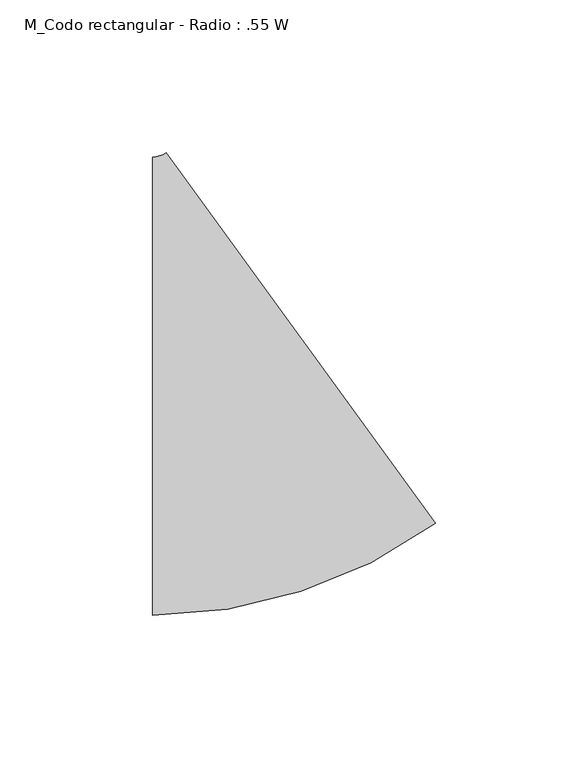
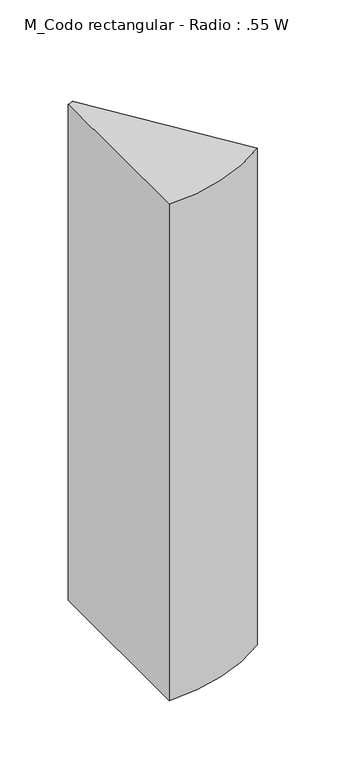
"""IFC4 building model written with IfcOpenShell, lengths in millimetres: duct fitting geometry, M_Codo rectangular - Radio : .55 W."""

from ifc_helpers import new_model, si_unit, point, frame, frame_2d, origin, place, context, project, spatial, polyline, circle_curve, trimmed, segment, composite_curve, outline, extrude, source, transform, mapped, element, save


def m_codo_rectangular_radio_55_w_7ae425de(model_context):
    return source(origin(), model_context, "Body", "SweptSolid", [
        extrude(outline(composite_curve([segment(trimmed(circle_curve(frame_2d((-26.8351699, 82.5)), 157.5), [point((65.8228299, -44.8606888))], [point((-26.8351699, -75.0))], False, "CARTESIAN"), True, "CONTINUOUS"), segment(polyline([(-26.8351699, -75.0), (-26.8351699, 75.0)]), True, "CONTINUOUS"), segment(trimmed(circle_curve(frame_2d((-26.8351699, 82.5)), 7.5), [point((-26.8351699, 75.0))], [point((-22.4228842, 76.4352053))], True, "CARTESIAN"), True, "CONTINUOUS"), segment(polyline([(-22.4228842, 76.4352053), (65.8228299, -44.8606888)]), True, "CONTINUOUS")], self_intersect=False)), frame((0.0, 0.0, -225.0), z_axis=(0.0, 0.0, 1.0), x_axis=(1.0, 0.0, 0.0)), (0.0, 0.0, 1.0), 450.0),
    ])


if __name__ == "__main__":
    model = new_model("IFC4")
    model_context = context("Model", 3, world=origin())
    ifc_project = project(units=[si_unit("LENGTHUNIT", "METRE", prefix="MILLI")], contexts=[model_context])
    site = spatial("IfcSite", under=ifc_project)
    building = spatial("IfcBuilding", under=site)
    placement = place(None, origin())
    m_codo_rectangular_radio_55_w_shape = m_codo_rectangular_radio_55_w_7ae425de(model_context)
    element("IfcDuctFitting", 1, ObjectType="M_Codo rectangular - Radio : .55 W", at=placement, inside=building, context=model_context, shape_type="MappedRepresentation", body=[
        mapped(m_codo_rectangular_radio_55_w_shape, transform((0.0, 0.0, 0.0), x_axis=(1.0, 0.0, 0.0), y_axis=(0.0, 1.0, 0.0), z_axis=(0.0, 0.0, 1.0))),
    ])
    save(model, "model.ifc")
